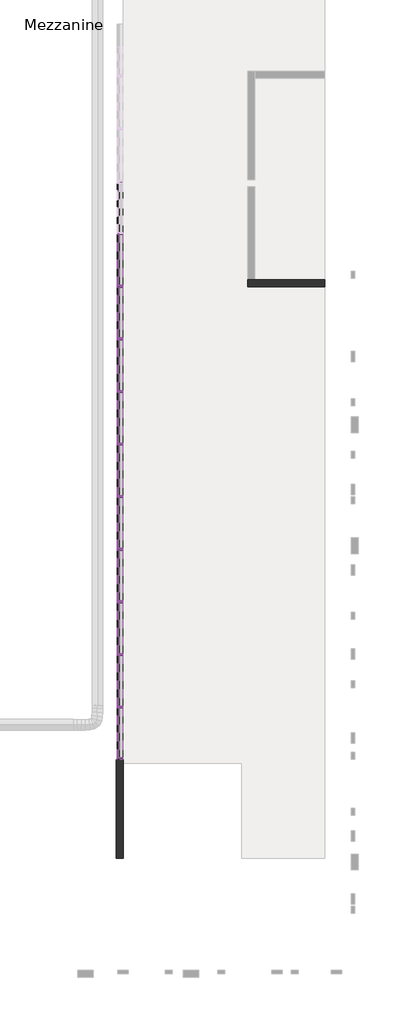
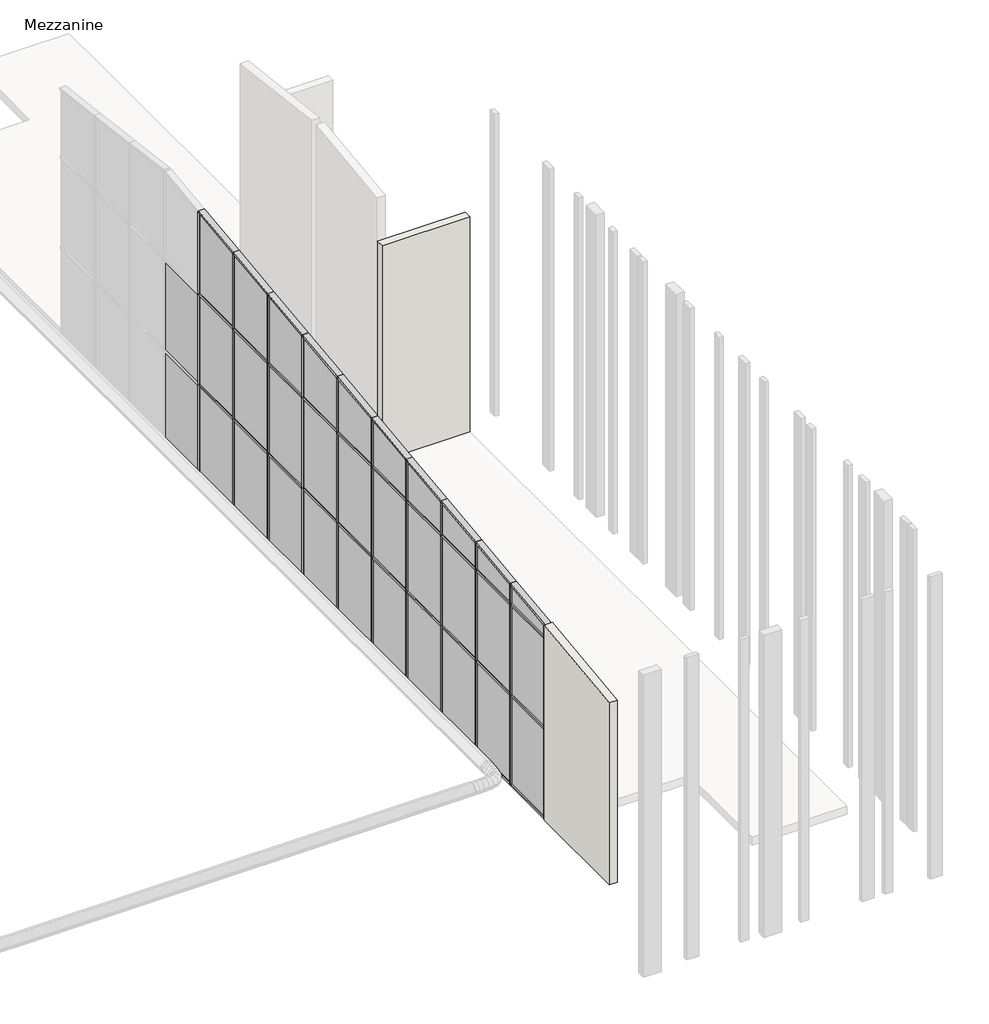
# One storey, part 1 of 7: 74 members, 32 plates, 2 walls.
"""IFC4 building model written with IfcOpenShell, lengths in millimetres."""

from ifc_helpers import new_model, si_unit, frame, origin, place, context, project, spatial, polyline, outline, extrude, faceted_brep, transform, mapped, element, save
from components import rectangular_mullion_50x150mm_3f309564, rectangular_mullion_50x150mm_6225e4e3, rectangular_mullion_50x150mm_2e7cc893, rectangular_mullion_50x150mm_5172759d, rectangular_mullion_50x150mm_f517b106, rectangular_mullion_50x150mm_8822e3e5, rectangular_mullion_50x150mm_46eed191, rectangular_mullion_50x150mm_0b98757f, rectangular_mullion_50x150mm_6d1c4966, rectangular_mullion_50x150mm_a60a9be7, rectangular_mullion_50x150mm_fb15dcae, rectangular_mullion_50x150mm_117dc41f, rectangular_mullion_50x150mm_21c36bc8, rectangular_mullion_50x150mm_12e0e616, rectangular_mullion_50x150mm_9e2aa556, rectangular_mullion_50x150mm_26ab9aec, rectangular_mullion_50x150mm_6953233a, rectangular_mullion_50x150mm_de235075, rectangular_mullion_50x150mm_662c37b1, system_panel_glazed_c8329cd5, system_panel_glazed_24a0e3a8, system_panel_glazed_3d8f6b4e, system_panel_glazed_97d3e589, system_panel_glazed_bb67df89, system_panel_glazed_d58f1996, system_panel_glazed_0c31e6eb, system_panel_glazed_ef8defe9, system_panel_glazed_98017830, system_panel_glazed_e39b940b, system_panel_glazed_0b7033eb, system_panel_glazed_049fbe71, system_panel_glazed_4bb1f2ed, system_panel_glazed_d0be8725

model = new_model("IFC4")

# Units and contexts
model_context = context("Model", 3, world=origin())
ifc_project = project(units=[si_unit("LENGTHUNIT", "METRE", prefix="MILLI")], contexts=[model_context])

# Site, building, storey
site = spatial("IfcSite", under=ifc_project)
building = spatial("IfcBuilding", under=site)
storey = spatial("IfcBuildingStorey", under=building, Name="Mezzanine", Elevation=5800.0)

# Members
placement = place(None, origin())
rectangular_mullion_50x150mm_shape = rectangular_mullion_50x150mm_3f309564(model_context)
element("IfcMember", 1, ObjectType="Rectangular Mullion : 50x150mm", at=placement, inside=storey, context=model_context, shape_type="MappedRepresentation", body=[
    mapped(rectangular_mullion_50x150mm_shape, transform((-18810.7705062, -30330.5199596, 5800.0), x_axis=(0.0, 0.0, -1.0), y_axis=(1.0, 0.0, 0.0), z_axis=(0.0, -1.0, 0.0))),
])
rectangular_mullion_50x150mm_2_shape = rectangular_mullion_50x150mm_6225e4e3(model_context)
element("IfcMember", 2, ObjectType="Rectangular Mullion : 50x150mm", at=placement, inside=storey, context=model_context, shape_type="MappedRepresentation", body=[
    mapped(rectangular_mullion_50x150mm_2_shape, transform((-18810.7705062, -28876.5936436, 5800.0), x_axis=(0.0, 1.0, 0.0), y_axis=(1.0, 0.0, 0.0), z_axis=(0.0, 0.0, -1.0))),
])
element("IfcMember", 3, ObjectType="Rectangular Mullion : 50x150mm", at=placement, inside=storey, context=model_context, shape_type="MappedRepresentation", body=[
    mapped(rectangular_mullion_50x150mm_2_shape, transform((-18810.7705062, -27372.6673278, 5800.0), x_axis=(0.0, 1.0, 0.0), y_axis=(1.0, 0.0, 0.0), z_axis=(0.0, 0.0, -1.0))),
])
element("IfcMember", 4, ObjectType="Rectangular Mullion : 50x150mm", at=placement, inside=storey, context=model_context, shape_type="MappedRepresentation", body=[
    mapped(rectangular_mullion_50x150mm_2_shape, transform((-18810.7705062, -25868.7410121, 5800.0), x_axis=(0.0, 1.0, 0.0), y_axis=(1.0, 0.0, 0.0), z_axis=(0.0, 0.0, -1.0))),
])
element("IfcMember", 5, ObjectType="Rectangular Mullion : 50x150mm", at=placement, inside=storey, context=model_context, shape_type="MappedRepresentation", body=[
    mapped(rectangular_mullion_50x150mm_2_shape, transform((-18810.7705062, -24364.8146963, 5800.0), x_axis=(0.0, 1.0, 0.0), y_axis=(1.0, 0.0, 0.0), z_axis=(0.0, 0.0, -1.0))),
])
element("IfcMember", 6, ObjectType="Rectangular Mullion : 50x150mm", at=placement, inside=storey, context=model_context, shape_type="MappedRepresentation", body=[
    mapped(rectangular_mullion_50x150mm_2_shape, transform((-18810.7705062, -22860.8883805, 5800.0), x_axis=(0.0, 1.0, 0.0), y_axis=(1.0, 0.0, 0.0), z_axis=(0.0, 0.0, -1.0))),
])
element("IfcMember", 7, ObjectType="Rectangular Mullion : 50x150mm", at=placement, inside=storey, context=model_context, shape_type="MappedRepresentation", body=[
    mapped(rectangular_mullion_50x150mm_2_shape, transform((-18810.7705062, -21356.9620648, 5800.0), x_axis=(0.0, 1.0, 0.0), y_axis=(1.0, 0.0, 0.0), z_axis=(0.0, 0.0, -1.0))),
])
element("IfcMember", 8, ObjectType="Rectangular Mullion : 50x150mm", at=placement, inside=storey, context=model_context, shape_type="MappedRepresentation", body=[
    mapped(rectangular_mullion_50x150mm_2_shape, transform((-18810.7705062, -19853.035749, 5800.0), x_axis=(0.0, 1.0, 0.0), y_axis=(1.0, 0.0, 0.0), z_axis=(0.0, 0.0, -1.0))),
])
element("IfcMember", 9, ObjectType="Rectangular Mullion : 50x150mm", at=placement, inside=storey, context=model_context, shape_type="MappedRepresentation", body=[
    mapped(rectangular_mullion_50x150mm_2_shape, transform((-18810.7705062, -18349.1094333, 5800.0), x_axis=(0.0, 1.0, 0.0), y_axis=(1.0, 0.0, 0.0), z_axis=(0.0, 0.0, -1.0))),
])
element("IfcMember", 10, ObjectType="Rectangular Mullion : 50x150mm", at=placement, inside=storey, context=model_context, shape_type="MappedRepresentation", body=[
    mapped(rectangular_mullion_50x150mm_2_shape, transform((-18810.7705062, -16845.1831175, 5800.0), x_axis=(0.0, 1.0, 0.0), y_axis=(1.0, 0.0, 0.0), z_axis=(0.0, 0.0, -1.0))),
])
element("IfcMember", 11, ObjectType="Rectangular Mullion : 50x150mm", at=placement, inside=storey, context=model_context, shape_type="MappedRepresentation", body=[
    mapped(rectangular_mullion_50x150mm_2_shape, transform((-18810.7705062, -15341.2568018, 5800.0), x_axis=(0.0, 1.0, 0.0), y_axis=(1.0, 0.0, 0.0), z_axis=(0.0, 0.0, -1.0))),
])
rectangular_mullion_50x150mm_3_shape = rectangular_mullion_50x150mm_2e7cc893(model_context)
element("IfcMember", 12, ObjectType="Rectangular Mullion : 50x150mm", at=placement, inside=storey, context=model_context, shape_type="MappedRepresentation", body=[
    mapped(rectangular_mullion_50x150mm_3_shape, transform((-18810.7705062, -28901.5936436, 8200.0), x_axis=(0.0, 0.0, 1.0), y_axis=(1.0, 0.0, 0.0), z_axis=(0.0, 1.0, 0.0))),
])
element("IfcMember", 13, ObjectType="Rectangular Mullion : 50x150mm", at=placement, inside=storey, context=model_context, shape_type="MappedRepresentation", body=[
    mapped(rectangular_mullion_50x150mm_3_shape, transform((-18810.7705062, -28901.5936436, 10600.0), x_axis=(0.0, 0.0, 1.0), y_axis=(1.0, 0.0, 0.0), z_axis=(0.0, 1.0, 0.0))),
])
rectangular_mullion_50x150mm_4_shape = rectangular_mullion_50x150mm_5172759d(model_context)
element("IfcMember", 14, ObjectType="Rectangular Mullion : 50x150mm", at=placement, inside=storey, context=model_context, shape_type="MappedRepresentation", body=[
    mapped(rectangular_mullion_50x150mm_4_shape, transform((-18810.7705062, -27397.6673278, 8200.0), x_axis=(0.0, 0.0, 1.0), y_axis=(1.0, 0.0, 0.0), z_axis=(0.0, 1.0, 0.0))),
])
element("IfcMember", 15, ObjectType="Rectangular Mullion : 50x150mm", at=placement, inside=storey, context=model_context, shape_type="MappedRepresentation", body=[
    mapped(rectangular_mullion_50x150mm_4_shape, transform((-18810.7705062, -25893.7410121, 8200.0), x_axis=(0.0, 0.0, 1.0), y_axis=(1.0, 0.0, 0.0), z_axis=(0.0, 1.0, 0.0))),
])
element("IfcMember", 16, ObjectType="Rectangular Mullion : 50x150mm", at=placement, inside=storey, context=model_context, shape_type="MappedRepresentation", body=[
    mapped(rectangular_mullion_50x150mm_4_shape, transform((-18810.7705062, -24389.8146963, 8200.0), x_axis=(0.0, 0.0, 1.0), y_axis=(1.0, 0.0, 0.0), z_axis=(0.0, 1.0, 0.0))),
])
element("IfcMember", 17, ObjectType="Rectangular Mullion : 50x150mm", at=placement, inside=storey, context=model_context, shape_type="MappedRepresentation", body=[
    mapped(rectangular_mullion_50x150mm_4_shape, transform((-18810.7705062, -22885.8883805, 8200.0), x_axis=(0.0, 0.0, 1.0), y_axis=(1.0, 0.0, 0.0), z_axis=(0.0, 1.0, 0.0))),
])
element("IfcMember", 18, ObjectType="Rectangular Mullion : 50x150mm", at=placement, inside=storey, context=model_context, shape_type="MappedRepresentation", body=[
    mapped(rectangular_mullion_50x150mm_4_shape, transform((-18810.7705062, -21381.9620648, 8200.0), x_axis=(0.0, 0.0, 1.0), y_axis=(1.0, 0.0, 0.0), z_axis=(0.0, 1.0, 0.0))),
])
element("IfcMember", 19, ObjectType="Rectangular Mullion : 50x150mm", at=placement, inside=storey, context=model_context, shape_type="MappedRepresentation", body=[
    mapped(rectangular_mullion_50x150mm_4_shape, transform((-18810.7705062, -19878.035749, 8200.0), x_axis=(0.0, 0.0, 1.0), y_axis=(1.0, 0.0, 0.0), z_axis=(0.0, 1.0, 0.0))),
])
element("IfcMember", 20, ObjectType="Rectangular Mullion : 50x150mm", at=placement, inside=storey, context=model_context, shape_type="MappedRepresentation", body=[
    mapped(rectangular_mullion_50x150mm_4_shape, transform((-18810.7705062, -18374.1094333, 8200.0), x_axis=(0.0, 0.0, 1.0), y_axis=(1.0, 0.0, 0.0), z_axis=(0.0, 1.0, 0.0))),
])
element("IfcMember", 21, ObjectType="Rectangular Mullion : 50x150mm", at=placement, inside=storey, context=model_context, shape_type="MappedRepresentation", body=[
    mapped(rectangular_mullion_50x150mm_4_shape, transform((-18810.7705062, -16870.1831175, 8200.0), x_axis=(0.0, 0.0, 1.0), y_axis=(1.0, 0.0, 0.0), z_axis=(0.0, 1.0, 0.0))),
])
element("IfcMember", 22, ObjectType="Rectangular Mullion : 50x150mm", at=placement, inside=storey, context=model_context, shape_type="MappedRepresentation", body=[
    mapped(rectangular_mullion_50x150mm_4_shape, transform((-18810.7705062, -15366.2568018, 8200.0), x_axis=(0.0, 0.0, 1.0), y_axis=(1.0, 0.0, 0.0), z_axis=(0.0, 1.0, 0.0))),
])
element("IfcMember", 23, ObjectType="Rectangular Mullion : 50x150mm", at=placement, inside=storey, context=model_context, shape_type="MappedRepresentation", body=[
    mapped(rectangular_mullion_50x150mm_4_shape, transform((-18810.7705062, -27397.6673278, 10600.0), x_axis=(0.0, 0.0, 1.0), y_axis=(1.0, 0.0, 0.0), z_axis=(0.0, 1.0, 0.0))),
])
element("IfcMember", 24, ObjectType="Rectangular Mullion : 50x150mm", at=placement, inside=storey, context=model_context, shape_type="MappedRepresentation", body=[
    mapped(rectangular_mullion_50x150mm_4_shape, transform((-18810.7705062, -25893.7410121, 10600.0), x_axis=(0.0, 0.0, 1.0), y_axis=(1.0, 0.0, 0.0), z_axis=(0.0, 1.0, 0.0))),
])
element("IfcMember", 25, ObjectType="Rectangular Mullion : 50x150mm", at=placement, inside=storey, context=model_context, shape_type="MappedRepresentation", body=[
    mapped(rectangular_mullion_50x150mm_4_shape, transform((-18810.7705062, -24389.8146963, 10600.0), x_axis=(0.0, 0.0, 1.0), y_axis=(1.0, 0.0, 0.0), z_axis=(0.0, 1.0, 0.0))),
])
element("IfcMember", 26, ObjectType="Rectangular Mullion : 50x150mm", at=placement, inside=storey, context=model_context, shape_type="MappedRepresentation", body=[
    mapped(rectangular_mullion_50x150mm_4_shape, transform((-18810.7705062, -22885.8883805, 10600.0), x_axis=(0.0, 0.0, 1.0), y_axis=(1.0, 0.0, 0.0), z_axis=(0.0, 1.0, 0.0))),
])
element("IfcMember", 27, ObjectType="Rectangular Mullion : 50x150mm", at=placement, inside=storey, context=model_context, shape_type="MappedRepresentation", body=[
    mapped(rectangular_mullion_50x150mm_4_shape, transform((-18810.7705062, -21381.9620648, 10600.0), x_axis=(0.0, 0.0, 1.0), y_axis=(1.0, 0.0, 0.0), z_axis=(0.0, 1.0, 0.0))),
])
element("IfcMember", 28, ObjectType="Rectangular Mullion : 50x150mm", at=placement, inside=storey, context=model_context, shape_type="MappedRepresentation", body=[
    mapped(rectangular_mullion_50x150mm_4_shape, transform((-18810.7705062, -19878.035749, 10600.0), x_axis=(0.0, 0.0, 1.0), y_axis=(1.0, 0.0, 0.0), z_axis=(0.0, 1.0, 0.0))),
])
element("IfcMember", 29, ObjectType="Rectangular Mullion : 50x150mm", at=placement, inside=storey, context=model_context, shape_type="MappedRepresentation", body=[
    mapped(rectangular_mullion_50x150mm_4_shape, transform((-18810.7705062, -18374.1094333, 10600.0), x_axis=(0.0, 0.0, 1.0), y_axis=(1.0, 0.0, 0.0), z_axis=(0.0, 1.0, 0.0))),
])
element("IfcMember", 30, ObjectType="Rectangular Mullion : 50x150mm", at=placement, inside=storey, context=model_context, shape_type="MappedRepresentation", body=[
    mapped(rectangular_mullion_50x150mm_4_shape, transform((-18810.7705062, -16870.1831175, 10600.0), x_axis=(0.0, 0.0, 1.0), y_axis=(1.0, 0.0, 0.0), z_axis=(0.0, 1.0, 0.0))),
])
element("IfcMember", 31, ObjectType="Rectangular Mullion : 50x150mm", at=placement, inside=storey, context=model_context, shape_type="MappedRepresentation", body=[
    mapped(rectangular_mullion_50x150mm_4_shape, transform((-18810.7705062, -15366.2568018, 10600.0), x_axis=(0.0, 0.0, 1.0), y_axis=(1.0, 0.0, 0.0), z_axis=(0.0, 1.0, 0.0))),
])
rectangular_mullion_50x150mm_5_shape = rectangular_mullion_50x150mm_f517b106(model_context)
element("IfcMember", 32, ObjectType="Rectangular Mullion : 50x150mm", at=placement, inside=storey, context=model_context, shape_type="MappedRepresentation", body=[
    mapped(rectangular_mullion_50x150mm_5_shape, transform((-18810.7705062, -28851.5936436, 5800.0), x_axis=(0.0, 0.0, -1.0), y_axis=(1.0, 0.0, 0.0), z_axis=(0.0, -1.0, 0.0))),
])
element("IfcMember", 33, ObjectType="Rectangular Mullion : 50x150mm", at=placement, inside=storey, context=model_context, shape_type="MappedRepresentation", body=[
    mapped(rectangular_mullion_50x150mm_5_shape, transform((-18810.7705062, -27347.6673278, 5800.0), x_axis=(0.0, 0.0, -1.0), y_axis=(1.0, 0.0, 0.0), z_axis=(0.0, -1.0, 0.0))),
])
element("IfcMember", 34, ObjectType="Rectangular Mullion : 50x150mm", at=placement, inside=storey, context=model_context, shape_type="MappedRepresentation", body=[
    mapped(rectangular_mullion_50x150mm_5_shape, transform((-18810.7705062, -25843.7410121, 5800.0), x_axis=(0.0, 0.0, -1.0), y_axis=(1.0, 0.0, 0.0), z_axis=(0.0, -1.0, 0.0))),
])
element("IfcMember", 35, ObjectType="Rectangular Mullion : 50x150mm", at=placement, inside=storey, context=model_context, shape_type="MappedRepresentation", body=[
    mapped(rectangular_mullion_50x150mm_5_shape, transform((-18810.7705062, -24339.8146963, 5800.0), x_axis=(0.0, 0.0, -1.0), y_axis=(1.0, 0.0, 0.0), z_axis=(0.0, -1.0, 0.0))),
])
element("IfcMember", 36, ObjectType="Rectangular Mullion : 50x150mm", at=placement, inside=storey, context=model_context, shape_type="MappedRepresentation", body=[
    mapped(rectangular_mullion_50x150mm_5_shape, transform((-18810.7705062, -22835.8883805, 5800.0), x_axis=(0.0, 0.0, -1.0), y_axis=(1.0, 0.0, 0.0), z_axis=(0.0, -1.0, 0.0))),
])
element("IfcMember", 37, ObjectType="Rectangular Mullion : 50x150mm", at=placement, inside=storey, context=model_context, shape_type="MappedRepresentation", body=[
    mapped(rectangular_mullion_50x150mm_5_shape, transform((-18810.7705062, -21331.9620648, 5800.0), x_axis=(0.0, 0.0, -1.0), y_axis=(1.0, 0.0, 0.0), z_axis=(0.0, -1.0, 0.0))),
])
element("IfcMember", 38, ObjectType="Rectangular Mullion : 50x150mm", at=placement, inside=storey, context=model_context, shape_type="MappedRepresentation", body=[
    mapped(rectangular_mullion_50x150mm_5_shape, transform((-18810.7705062, -19828.035749, 5800.0), x_axis=(0.0, 0.0, -1.0), y_axis=(1.0, 0.0, 0.0), z_axis=(0.0, -1.0, 0.0))),
])
element("IfcMember", 39, ObjectType="Rectangular Mullion : 50x150mm", at=placement, inside=storey, context=model_context, shape_type="MappedRepresentation", body=[
    mapped(rectangular_mullion_50x150mm_5_shape, transform((-18810.7705062, -18324.1094333, 5800.0), x_axis=(0.0, 0.0, -1.0), y_axis=(1.0, 0.0, 0.0), z_axis=(0.0, -1.0, 0.0))),
])
element("IfcMember", 40, ObjectType="Rectangular Mullion : 50x150mm", at=placement, inside=storey, context=model_context, shape_type="MappedRepresentation", body=[
    mapped(rectangular_mullion_50x150mm_5_shape, transform((-18810.7705062, -16820.1831175, 5800.0), x_axis=(0.0, 0.0, -1.0), y_axis=(1.0, 0.0, 0.0), z_axis=(0.0, -1.0, 0.0))),
])
element("IfcMember", 41, ObjectType="Rectangular Mullion : 50x150mm", at=placement, inside=storey, context=model_context, shape_type="MappedRepresentation", body=[
    mapped(rectangular_mullion_50x150mm_5_shape, transform((-18810.7705062, -15316.2568018, 5800.0), x_axis=(0.0, 0.0, -1.0), y_axis=(1.0, 0.0, 0.0), z_axis=(0.0, -1.0, 0.0))),
])
element("IfcMember", 42, ObjectType="Rectangular Mullion : 50x150mm", at=placement, inside=storey, context=model_context, shape_type="MappedRepresentation", body=[
    mapped(rectangular_mullion_50x150mm_2_shape, transform((-18810.7705062, -28876.5936436, 8200.0), x_axis=(0.0, 1.0, 0.0), y_axis=(1.0, 0.0, 0.0), z_axis=(0.0, 0.0, -1.0))),
])
element("IfcMember", 43, ObjectType="Rectangular Mullion : 50x150mm", at=placement, inside=storey, context=model_context, shape_type="MappedRepresentation", body=[
    mapped(rectangular_mullion_50x150mm_2_shape, transform((-18810.7705062, -27372.6673278, 8200.0), x_axis=(0.0, 1.0, 0.0), y_axis=(1.0, 0.0, 0.0), z_axis=(0.0, 0.0, -1.0))),
])
element("IfcMember", 44, ObjectType="Rectangular Mullion : 50x150mm", at=placement, inside=storey, context=model_context, shape_type="MappedRepresentation", body=[
    mapped(rectangular_mullion_50x150mm_2_shape, transform((-18810.7705062, -25868.7410121, 8200.0), x_axis=(0.0, 1.0, 0.0), y_axis=(1.0, 0.0, 0.0), z_axis=(0.0, 0.0, -1.0))),
])
element("IfcMember", 45, ObjectType="Rectangular Mullion : 50x150mm", at=placement, inside=storey, context=model_context, shape_type="MappedRepresentation", body=[
    mapped(rectangular_mullion_50x150mm_2_shape, transform((-18810.7705062, -24364.8146963, 8200.0), x_axis=(0.0, 1.0, 0.0), y_axis=(1.0, 0.0, 0.0), z_axis=(0.0, 0.0, -1.0))),
])
element("IfcMember", 46, ObjectType="Rectangular Mullion : 50x150mm", at=placement, inside=storey, context=model_context, shape_type="MappedRepresentation", body=[
    mapped(rectangular_mullion_50x150mm_2_shape, transform((-18810.7705062, -22860.8883805, 8200.0), x_axis=(0.0, 1.0, 0.0), y_axis=(1.0, 0.0, 0.0), z_axis=(0.0, 0.0, -1.0))),
])
element("IfcMember", 47, ObjectType="Rectangular Mullion : 50x150mm", at=placement, inside=storey, context=model_context, shape_type="MappedRepresentation", body=[
    mapped(rectangular_mullion_50x150mm_2_shape, transform((-18810.7705062, -21356.9620648, 8200.0), x_axis=(0.0, 1.0, 0.0), y_axis=(1.0, 0.0, 0.0), z_axis=(0.0, 0.0, -1.0))),
])
element("IfcMember", 48, ObjectType="Rectangular Mullion : 50x150mm", at=placement, inside=storey, context=model_context, shape_type="MappedRepresentation", body=[
    mapped(rectangular_mullion_50x150mm_2_shape, transform((-18810.7705062, -19853.035749, 8200.0), x_axis=(0.0, 1.0, 0.0), y_axis=(1.0, 0.0, 0.0), z_axis=(0.0, 0.0, -1.0))),
])
element("IfcMember", 49, ObjectType="Rectangular Mullion : 50x150mm", at=placement, inside=storey, context=model_context, shape_type="MappedRepresentation", body=[
    mapped(rectangular_mullion_50x150mm_2_shape, transform((-18810.7705062, -18349.1094333, 8200.0), x_axis=(0.0, 1.0, 0.0), y_axis=(1.0, 0.0, 0.0), z_axis=(0.0, 0.0, -1.0))),
])
element("IfcMember", 50, ObjectType="Rectangular Mullion : 50x150mm", at=placement, inside=storey, context=model_context, shape_type="MappedRepresentation", body=[
    mapped(rectangular_mullion_50x150mm_2_shape, transform((-18810.7705062, -16845.1831175, 8200.0), x_axis=(0.0, 1.0, 0.0), y_axis=(1.0, 0.0, 0.0), z_axis=(0.0, 0.0, -1.0))),
])
element("IfcMember", 51, ObjectType="Rectangular Mullion : 50x150mm", at=placement, inside=storey, context=model_context, shape_type="MappedRepresentation", body=[
    mapped(rectangular_mullion_50x150mm_2_shape, transform((-18810.7705062, -15341.2568018, 8200.0), x_axis=(0.0, 1.0, 0.0), y_axis=(1.0, 0.0, 0.0), z_axis=(0.0, 0.0, -1.0))),
])
rectangular_mullion_50x150mm_6_shape = rectangular_mullion_50x150mm_8822e3e5(model_context)
element("IfcMember", 52, ObjectType="Rectangular Mullion : 50x150mm", at=placement, inside=storey, context=model_context, shape_type="MappedRepresentation", body=[
    mapped(rectangular_mullion_50x150mm_6_shape, transform((-18810.7705062, -28876.5936436, 10600.0), x_axis=(0.0, 1.0, 0.0), y_axis=(1.0, 0.0, 0.0), z_axis=(0.0, 0.0, -1.0))),
])
rectangular_mullion_50x150mm_7_shape = rectangular_mullion_50x150mm_46eed191(model_context)
element("IfcMember", 53, ObjectType="Rectangular Mullion : 50x150mm", at=placement, inside=storey, context=model_context, shape_type="MappedRepresentation", body=[
    mapped(rectangular_mullion_50x150mm_7_shape, transform((-18810.7705062, -27372.6673278, 10600.0), x_axis=(0.0, 1.0, 0.0), y_axis=(1.0, 0.0, 0.0), z_axis=(0.0, 0.0, -1.0))),
])
rectangular_mullion_50x150mm_8_shape = rectangular_mullion_50x150mm_0b98757f(model_context)
element("IfcMember", 54, ObjectType="Rectangular Mullion : 50x150mm", at=placement, inside=storey, context=model_context, shape_type="MappedRepresentation", body=[
    mapped(rectangular_mullion_50x150mm_8_shape, transform((-18810.7705062, -25868.7410121, 10600.0), x_axis=(0.0, 1.0, 0.0), y_axis=(1.0, 0.0, 0.0), z_axis=(0.0, 0.0, -1.0))),
])
rectangular_mullion_50x150mm_9_shape = rectangular_mullion_50x150mm_6d1c4966(model_context)
element("IfcMember", 55, ObjectType="Rectangular Mullion : 50x150mm", at=placement, inside=storey, context=model_context, shape_type="MappedRepresentation", body=[
    mapped(rectangular_mullion_50x150mm_9_shape, transform((-18810.7705062, -24364.8146963, 10600.0), x_axis=(0.0, 1.0, 0.0), y_axis=(1.0, 0.0, 0.0), z_axis=(0.0, 0.0, -1.0))),
])
rectangular_mullion_50x150mm_10_shape = rectangular_mullion_50x150mm_a60a9be7(model_context)
element("IfcMember", 56, ObjectType="Rectangular Mullion : 50x150mm", at=placement, inside=storey, context=model_context, shape_type="MappedRepresentation", body=[
    mapped(rectangular_mullion_50x150mm_10_shape, transform((-18810.7705062, -22860.8883805, 10600.0), x_axis=(0.0, 1.0, 0.0), y_axis=(1.0, 0.0, 0.0), z_axis=(0.0, 0.0, -1.0))),
])
rectangular_mullion_50x150mm_11_shape = rectangular_mullion_50x150mm_fb15dcae(model_context)
element("IfcMember", 57, ObjectType="Rectangular Mullion : 50x150mm", at=placement, inside=storey, context=model_context, shape_type="MappedRepresentation", body=[
    mapped(rectangular_mullion_50x150mm_11_shape, transform((-18810.7705062, -21356.9620648, 10600.0), x_axis=(0.0, 1.0, 0.0), y_axis=(1.0, 0.0, 0.0), z_axis=(0.0, 0.0, -1.0))),
])
rectangular_mullion_50x150mm_12_shape = rectangular_mullion_50x150mm_117dc41f(model_context)
element("IfcMember", 58, ObjectType="Rectangular Mullion : 50x150mm", at=placement, inside=storey, context=model_context, shape_type="MappedRepresentation", body=[
    mapped(rectangular_mullion_50x150mm_12_shape, transform((-18810.7705062, -19853.035749, 10600.0), x_axis=(0.0, 1.0, 0.0), y_axis=(1.0, 0.0, 0.0), z_axis=(0.0, 0.0, -1.0))),
])
rectangular_mullion_50x150mm_13_shape = rectangular_mullion_50x150mm_21c36bc8(model_context)
element("IfcMember", 59, ObjectType="Rectangular Mullion : 50x150mm", at=placement, inside=storey, context=model_context, shape_type="MappedRepresentation", body=[
    mapped(rectangular_mullion_50x150mm_13_shape, transform((-18810.7705062, -18349.1094333, 10600.0), x_axis=(0.0, 1.0, 0.0), y_axis=(1.0, 0.0, 0.0), z_axis=(0.0, 0.0, -1.0))),
])
rectangular_mullion_50x150mm_14_shape = rectangular_mullion_50x150mm_12e0e616(model_context)
element("IfcMember", 60, ObjectType="Rectangular Mullion : 50x150mm", at=placement, inside=storey, context=model_context, shape_type="MappedRepresentation", body=[
    mapped(rectangular_mullion_50x150mm_14_shape, transform((-18810.7705062, -16845.1831175, 10600.0), x_axis=(0.0, 1.0, 0.0), y_axis=(1.0, 0.0, 0.0), z_axis=(0.0, 0.0, -1.0))),
])
rectangular_mullion_50x150mm_15_shape = rectangular_mullion_50x150mm_9e2aa556(model_context)
element("IfcMember", 61, ObjectType="Rectangular Mullion : 50x150mm", at=placement, inside=storey, context=model_context, shape_type="MappedRepresentation", body=[
    mapped(rectangular_mullion_50x150mm_15_shape, transform((-18810.7705062, -15341.2568018, 10600.0), x_axis=(0.0, 1.0, 0.0), y_axis=(1.0, 0.0, 0.0), z_axis=(0.0, 0.0, -1.0))),
])
rectangular_mullion_50x150mm_16_shape = rectangular_mullion_50x150mm_26ab9aec(model_context)
element("IfcMember", 62, ObjectType="Rectangular Mullion : 50x150mm", at=placement, inside=storey, context=model_context, shape_type="MappedRepresentation", body=[
    mapped(rectangular_mullion_50x150mm_16_shape, transform((-18810.7705062, -28876.5936436, 11150.8142891), x_axis=(0.0, -0.1218693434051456, 0.9925461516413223), y_axis=(1.0, 0.0, 0.0), z_axis=(0.0, 0.9925461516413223, 0.1218693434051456))),
])
rectangular_mullion_50x150mm_17_shape = rectangular_mullion_50x150mm_6953233a(model_context)
element("IfcMember", 63, ObjectType="Rectangular Mullion : 50x150mm", at=placement, inside=storey, context=model_context, shape_type="MappedRepresentation", body=[
    mapped(rectangular_mullion_50x150mm_17_shape, transform((-18810.7705062, -27372.6673278, 11335.4732214), x_axis=(0.0, -0.12186934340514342, 0.9925461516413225), y_axis=(1.0, 0.0, 0.0), z_axis=(0.0, 0.9925461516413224, 0.12186934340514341))),
])
element("IfcMember", 64, ObjectType="Rectangular Mullion : 50x150mm", at=placement, inside=storey, context=model_context, shape_type="MappedRepresentation", body=[
    mapped(rectangular_mullion_50x150mm_17_shape, transform((-18810.7705062, -25868.7410121, 11520.1321537), x_axis=(0.0, -0.12186934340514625, 0.9925461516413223), y_axis=(1.0, 0.0, 0.0), z_axis=(0.0, 0.9925461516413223, 0.12186934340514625))),
])
element("IfcMember", 65, ObjectType="Rectangular Mullion : 50x150mm", at=placement, inside=storey, context=model_context, shape_type="MappedRepresentation", body=[
    mapped(rectangular_mullion_50x150mm_17_shape, transform((-18810.7705062, -24364.8146963, 11704.791086), x_axis=(0.0, -0.12186934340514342, 0.9925461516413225), y_axis=(1.0, 0.0, 0.0), z_axis=(0.0, 0.9925461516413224, 0.12186934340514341))),
])
element("IfcMember", 66, ObjectType="Rectangular Mullion : 50x150mm", at=placement, inside=storey, context=model_context, shape_type="MappedRepresentation", body=[
    mapped(rectangular_mullion_50x150mm_17_shape, transform((-18810.7705062, -22860.8883805, 11889.4500183), x_axis=(0.0, -0.12186934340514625, 0.9925461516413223), y_axis=(1.0, 0.0, 0.0), z_axis=(0.0, 0.9925461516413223, 0.12186934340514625))),
])
element("IfcMember", 67, ObjectType="Rectangular Mullion : 50x150mm", at=placement, inside=storey, context=model_context, shape_type="MappedRepresentation", body=[
    mapped(rectangular_mullion_50x150mm_17_shape, transform((-18810.7705062, -21356.9620648, 12074.1089506), x_axis=(0.0, -0.12186934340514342, 0.9925461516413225), y_axis=(1.0, 0.0, 0.0), z_axis=(0.0, 0.9925461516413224, 0.12186934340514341))),
])
element("IfcMember", 68, ObjectType="Rectangular Mullion : 50x150mm", at=placement, inside=storey, context=model_context, shape_type="MappedRepresentation", body=[
    mapped(rectangular_mullion_50x150mm_17_shape, transform((-18810.7705062, -19853.035749, 12258.7678829), x_axis=(0.0, -0.1218693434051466, 0.9925461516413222), y_axis=(1.0, 0.0, 0.0), z_axis=(0.0, 0.9925461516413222, 0.1218693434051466))),
])
element("IfcMember", 69, ObjectType="Rectangular Mullion : 50x150mm", at=placement, inside=storey, context=model_context, shape_type="MappedRepresentation", body=[
    mapped(rectangular_mullion_50x150mm_17_shape, transform((-18810.7705062, -18349.1094333, 12443.4268152), x_axis=(0.0, -0.12186934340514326, 0.9925461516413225), y_axis=(1.0, 0.0, 0.0), z_axis=(0.0, 0.9925461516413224, 0.12186934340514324))),
])
element("IfcMember", 70, ObjectType="Rectangular Mullion : 50x150mm", at=placement, inside=storey, context=model_context, shape_type="MappedRepresentation", body=[
    mapped(rectangular_mullion_50x150mm_17_shape, transform((-18810.7705062, -16845.1831175, 12628.0857476), x_axis=(0.0, -0.12186934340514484, 0.9925461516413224), y_axis=(1.0, 0.0, 0.0), z_axis=(0.0, 0.9925461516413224, 0.12186934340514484))),
])
element("IfcMember", 71, ObjectType="Rectangular Mullion : 50x150mm", at=placement, inside=storey, context=model_context, shape_type="MappedRepresentation", body=[
    mapped(rectangular_mullion_50x150mm_17_shape, transform((-18810.7705062, -15341.2568018, 12812.7446799), x_axis=(0.0, -0.12186934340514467, 0.9925461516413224), y_axis=(1.0, 0.0, 0.0), z_axis=(0.0, 0.9925461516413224, 0.12186934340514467))),
])
rectangular_mullion_50x150mm_18_shape = rectangular_mullion_50x150mm_de235075(model_context)
element("IfcMember", 72, ObjectType="Rectangular Mullion : 50x150mm", at=placement, inside=storey, context=model_context, shape_type="MappedRepresentation", body=[
    mapped(rectangular_mullion_50x150mm_18_shape, transform((-18810.7705062, -30380.5199596, 10966.1553567), x_axis=(0.0, -1.0, 0.0), y_axis=(1.0, 0.0, 0.0), z_axis=(0.0, 0.0, 1.0))),
])
rectangular_mullion_50x150mm_19_shape = rectangular_mullion_50x150mm_662c37b1(model_context)
element("IfcMember", 73, ObjectType="Rectangular Mullion : 50x150mm", at=placement, inside=storey, context=model_context, shape_type="MappedRepresentation", body=[
    mapped(rectangular_mullion_50x150mm_19_shape, transform((-18810.7705062, -30380.5199596, 8200.0), x_axis=(0.0, -1.0, 0.0), y_axis=(1.0, 0.0, 0.0), z_axis=(0.0, 0.0, 1.0))),
])
element("IfcMember", 74, ObjectType="Rectangular Mullion : 50x150mm", at=placement, inside=storey, context=model_context, shape_type="MappedRepresentation", body=[
    mapped(rectangular_mullion_50x150mm_19_shape, transform((-18810.7705062, -30380.5199596, 10600.0), x_axis=(0.0, -1.0, 0.0), y_axis=(1.0, 0.0, 0.0), z_axis=(0.0, 0.0, 1.0))),
])

# Plates
system_panel_glazed_shape = system_panel_glazed_c8329cd5(model_context)
element("IfcPlate", 75, ObjectType="System Panel : Glazed", at=placement, inside=storey, context=model_context, shape_type="MappedRepresentation", body=[
    mapped(system_panel_glazed_shape, transform((-18810.7705062, -29616.0568016, 5850.0), x_axis=(0.0, 1.0, 0.0), y_axis=(-1.0, 0.0, 0.0), z_axis=(0.0, 0.0, 1.0))),
])
system_panel_glazed_2_shape = system_panel_glazed_24a0e3a8(model_context)
element("IfcPlate", 76, ObjectType="System Panel : Glazed", at=placement, inside=storey, context=model_context, shape_type="MappedRepresentation", body=[
    mapped(system_panel_glazed_2_shape, transform((-18810.7705062, -28124.6304857, 5850.0), x_axis=(0.0, 1.0, 0.0), y_axis=(-1.0, 0.0, 0.0), z_axis=(0.0, 0.0, 1.0))),
])
element("IfcPlate", 77, ObjectType="System Panel : Glazed", at=placement, inside=storey, context=model_context, shape_type="MappedRepresentation", body=[
    mapped(system_panel_glazed_2_shape, transform((-18810.7705062, -26620.7041699, 5850.0), x_axis=(0.0, 1.0, 0.0), y_axis=(-1.0, 0.0, 0.0), z_axis=(0.0, 0.0, 1.0))),
])
element("IfcPlate", 78, ObjectType="System Panel : Glazed", at=placement, inside=storey, context=model_context, shape_type="MappedRepresentation", body=[
    mapped(system_panel_glazed_2_shape, transform((-18810.7705062, -25116.7778542, 5850.0), x_axis=(0.0, 1.0, 0.0), y_axis=(-1.0, 0.0, 0.0), z_axis=(0.0, 0.0, 1.0))),
])
element("IfcPlate", 79, ObjectType="System Panel : Glazed", at=placement, inside=storey, context=model_context, shape_type="MappedRepresentation", body=[
    mapped(system_panel_glazed_2_shape, transform((-18810.7705062, -23612.8515384, 5850.0), x_axis=(0.0, 1.0, 0.0), y_axis=(-1.0, 0.0, 0.0), z_axis=(0.0, 0.0, 1.0))),
])
element("IfcPlate", 80, ObjectType="System Panel : Glazed", at=placement, inside=storey, context=model_context, shape_type="MappedRepresentation", body=[
    mapped(system_panel_glazed_2_shape, transform((-18810.7705062, -22108.9252227, 5850.0), x_axis=(0.0, 1.0, 0.0), y_axis=(-1.0, 0.0, 0.0), z_axis=(0.0, 0.0, 1.0))),
])
element("IfcPlate", 81, ObjectType="System Panel : Glazed", at=placement, inside=storey, context=model_context, shape_type="MappedRepresentation", body=[
    mapped(system_panel_glazed_2_shape, transform((-18810.7705062, -20604.9989069, 5850.0), x_axis=(0.0, 1.0, 0.0), y_axis=(-1.0, 0.0, 0.0), z_axis=(0.0, 0.0, 1.0))),
])
element("IfcPlate", 82, ObjectType="System Panel : Glazed", at=placement, inside=storey, context=model_context, shape_type="MappedRepresentation", body=[
    mapped(system_panel_glazed_2_shape, transform((-18810.7705062, -19101.0725911, 5850.0), x_axis=(0.0, 1.0, 0.0), y_axis=(-1.0, 0.0, 0.0), z_axis=(0.0, 0.0, 1.0))),
])
element("IfcPlate", 83, ObjectType="System Panel : Glazed", at=placement, inside=storey, context=model_context, shape_type="MappedRepresentation", body=[
    mapped(system_panel_glazed_2_shape, transform((-18810.7705062, -17597.1462754, 5850.0), x_axis=(0.0, 1.0, 0.0), y_axis=(-1.0, 0.0, 0.0), z_axis=(0.0, 0.0, 1.0))),
])
element("IfcPlate", 84, ObjectType="System Panel : Glazed", at=placement, inside=storey, context=model_context, shape_type="MappedRepresentation", body=[
    mapped(system_panel_glazed_2_shape, transform((-18810.7705062, -16093.2199596, 5850.0), x_axis=(0.0, 1.0, 0.0), y_axis=(-1.0, 0.0, 0.0), z_axis=(0.0, 0.0, 1.0))),
])
element("IfcPlate", 85, ObjectType="System Panel : Glazed", at=placement, inside=storey, context=model_context, shape_type="MappedRepresentation", body=[
    mapped(system_panel_glazed_2_shape, transform((-18810.7705062, -14589.2936439, 5850.0), x_axis=(0.0, 1.0, 0.0), y_axis=(-1.0, 0.0, 0.0), z_axis=(0.0, 0.0, 1.0))),
])
system_panel_glazed_3_shape = system_panel_glazed_3d8f6b4e(model_context)
element("IfcPlate", 86, ObjectType="System Panel : Glazed", at=placement, inside=storey, context=model_context, shape_type="MappedRepresentation", body=[
    mapped(system_panel_glazed_3_shape, transform((-18810.7705062, -29616.0568016, 8225.0), x_axis=(0.0, 1.0, 0.0), y_axis=(-1.0, 0.0, 0.0), z_axis=(0.0, 0.0, 1.0))),
])
system_panel_glazed_4_shape = system_panel_glazed_97d3e589(model_context)
element("IfcPlate", 87, ObjectType="System Panel : Glazed", at=placement, inside=storey, context=model_context, shape_type="MappedRepresentation", body=[
    mapped(system_panel_glazed_4_shape, transform((-18810.7705062, -28124.6304857, 8225.0), x_axis=(0.0, 1.0, 0.0), y_axis=(-1.0, 0.0, 0.0), z_axis=(0.0, 0.0, 1.0))),
])
element("IfcPlate", 88, ObjectType="System Panel : Glazed", at=placement, inside=storey, context=model_context, shape_type="MappedRepresentation", body=[
    mapped(system_panel_glazed_4_shape, transform((-18810.7705062, -26620.7041699, 8225.0), x_axis=(0.0, 1.0, 0.0), y_axis=(-1.0, 0.0, 0.0), z_axis=(0.0, 0.0, 1.0))),
])
element("IfcPlate", 89, ObjectType="System Panel : Glazed", at=placement, inside=storey, context=model_context, shape_type="MappedRepresentation", body=[
    mapped(system_panel_glazed_4_shape, transform((-18810.7705062, -25116.7778542, 8225.0), x_axis=(0.0, 1.0, 0.0), y_axis=(-1.0, 0.0, 0.0), z_axis=(0.0, 0.0, 1.0))),
])
element("IfcPlate", 90, ObjectType="System Panel : Glazed", at=placement, inside=storey, context=model_context, shape_type="MappedRepresentation", body=[
    mapped(system_panel_glazed_4_shape, transform((-18810.7705062, -23612.8515384, 8225.0), x_axis=(0.0, 1.0, 0.0), y_axis=(-1.0, 0.0, 0.0), z_axis=(0.0, 0.0, 1.0))),
])
element("IfcPlate", 91, ObjectType="System Panel : Glazed", at=placement, inside=storey, context=model_context, shape_type="MappedRepresentation", body=[
    mapped(system_panel_glazed_4_shape, transform((-18810.7705062, -22108.9252227, 8225.0), x_axis=(0.0, 1.0, 0.0), y_axis=(-1.0, 0.0, 0.0), z_axis=(0.0, 0.0, 1.0))),
])
element("IfcPlate", 92, ObjectType="System Panel : Glazed", at=placement, inside=storey, context=model_context, shape_type="MappedRepresentation", body=[
    mapped(system_panel_glazed_4_shape, transform((-18810.7705062, -20604.9989069, 8225.0), x_axis=(0.0, 1.0, 0.0), y_axis=(-1.0, 0.0, 0.0), z_axis=(0.0, 0.0, 1.0))),
])
element("IfcPlate", 93, ObjectType="System Panel : Glazed", at=placement, inside=storey, context=model_context, shape_type="MappedRepresentation", body=[
    mapped(system_panel_glazed_4_shape, transform((-18810.7705062, -19101.0725911, 8225.0), x_axis=(0.0, 1.0, 0.0), y_axis=(-1.0, 0.0, 0.0), z_axis=(0.0, 0.0, 1.0))),
])
element("IfcPlate", 94, ObjectType="System Panel : Glazed", at=placement, inside=storey, context=model_context, shape_type="MappedRepresentation", body=[
    mapped(system_panel_glazed_4_shape, transform((-18810.7705062, -17597.1462754, 8225.0), x_axis=(0.0, 1.0, 0.0), y_axis=(-1.0, 0.0, 0.0), z_axis=(0.0, 0.0, 1.0))),
])
element("IfcPlate", 95, ObjectType="System Panel : Glazed", at=placement, inside=storey, context=model_context, shape_type="MappedRepresentation", body=[
    mapped(system_panel_glazed_4_shape, transform((-18810.7705062, -16093.2199596, 8225.0), x_axis=(0.0, 1.0, 0.0), y_axis=(-1.0, 0.0, 0.0), z_axis=(0.0, 0.0, 1.0))),
])
element("IfcPlate", 96, ObjectType="System Panel : Glazed", at=placement, inside=storey, context=model_context, shape_type="MappedRepresentation", body=[
    mapped(system_panel_glazed_4_shape, transform((-18810.7705062, -14589.2936439, 8225.0), x_axis=(0.0, 1.0, 0.0), y_axis=(-1.0, 0.0, 0.0), z_axis=(0.0, 0.0, 1.0))),
])
system_panel_glazed_5_shape = system_panel_glazed_bb67df89(model_context)
element("IfcPlate", 97, ObjectType="System Panel : Glazed", at=placement, inside=storey, context=model_context, shape_type="MappedRepresentation", body=[
    mapped(system_panel_glazed_5_shape, transform((-18810.7705062, -29616.0568016, 10625.0), x_axis=(0.0, 1.0, 0.0), y_axis=(-1.0, 0.0, 0.0), z_axis=(0.0, 0.0, 1.0))),
])
system_panel_glazed_6_shape = system_panel_glazed_d58f1996(model_context)
element("IfcPlate", 98, ObjectType="System Panel : Glazed", at=placement, inside=storey, context=model_context, shape_type="MappedRepresentation", body=[
    mapped(system_panel_glazed_6_shape, transform((-18810.7705062, -28124.6304857, 10625.0), x_axis=(0.0, 1.0, 0.0), y_axis=(-1.0, 0.0, 0.0), z_axis=(0.0, 0.0, 1.0))),
])
system_panel_glazed_7_shape = system_panel_glazed_0c31e6eb(model_context)
element("IfcPlate", 99, ObjectType="System Panel : Glazed", at=placement, inside=storey, context=model_context, shape_type="MappedRepresentation", body=[
    mapped(system_panel_glazed_7_shape, transform((-18810.7705062, -26620.7041699, 10625.0), x_axis=(0.0, 1.0, 0.0), y_axis=(-1.0, 0.0, 0.0), z_axis=(0.0, 0.0, 1.0))),
])
system_panel_glazed_8_shape = system_panel_glazed_ef8defe9(model_context)
element("IfcPlate", 100, ObjectType="System Panel : Glazed", at=placement, inside=storey, context=model_context, shape_type="MappedRepresentation", body=[
    mapped(system_panel_glazed_8_shape, transform((-18810.7705062, -25116.7778542, 10625.0), x_axis=(0.0, 1.0, 0.0), y_axis=(-1.0, 0.0, 0.0), z_axis=(0.0, 0.0, 1.0))),
])
system_panel_glazed_9_shape = system_panel_glazed_98017830(model_context)
element("IfcPlate", 101, ObjectType="System Panel : Glazed", at=placement, inside=storey, context=model_context, shape_type="MappedRepresentation", body=[
    mapped(system_panel_glazed_9_shape, transform((-18810.7705062, -23612.8515384, 10625.0), x_axis=(0.0, 1.0, 0.0), y_axis=(-1.0, 0.0, 0.0), z_axis=(0.0, 0.0, 1.0))),
])
system_panel_glazed_10_shape = system_panel_glazed_e39b940b(model_context)
element("IfcPlate", 102, ObjectType="System Panel : Glazed", at=placement, inside=storey, context=model_context, shape_type="MappedRepresentation", body=[
    mapped(system_panel_glazed_10_shape, transform((-18810.7705062, -22108.9252227, 10625.0), x_axis=(0.0, 1.0, 0.0), y_axis=(-1.0, 0.0, 0.0), z_axis=(0.0, 0.0, 1.0))),
])
system_panel_glazed_11_shape = system_panel_glazed_0b7033eb(model_context)
element("IfcPlate", 103, ObjectType="System Panel : Glazed", at=placement, inside=storey, context=model_context, shape_type="MappedRepresentation", body=[
    mapped(system_panel_glazed_11_shape, transform((-18810.7705062, -20604.9989069, 10625.0), x_axis=(0.0, 1.0, 0.0), y_axis=(-1.0, 0.0, 0.0), z_axis=(0.0, 0.0, 1.0))),
])
system_panel_glazed_12_shape = system_panel_glazed_049fbe71(model_context)
element("IfcPlate", 104, ObjectType="System Panel : Glazed", at=placement, inside=storey, context=model_context, shape_type="MappedRepresentation", body=[
    mapped(system_panel_glazed_12_shape, transform((-18810.7705062, -19101.0725911, 10625.0), x_axis=(0.0, 1.0, 0.0), y_axis=(-1.0, 0.0, 0.0), z_axis=(0.0, 0.0, 1.0))),
])
system_panel_glazed_13_shape = system_panel_glazed_4bb1f2ed(model_context)
element("IfcPlate", 105, ObjectType="System Panel : Glazed", at=placement, inside=storey, context=model_context, shape_type="MappedRepresentation", body=[
    mapped(system_panel_glazed_13_shape, transform((-18810.7705062, -17597.1462754, 10625.0), x_axis=(0.0, 1.0, 0.0), y_axis=(-1.0, 0.0, 0.0), z_axis=(0.0, 0.0, 1.0))),
])
system_panel_glazed_14_shape = system_panel_glazed_d0be8725(model_context)
element("IfcPlate", 106, ObjectType="System Panel : Glazed", at=placement, inside=storey, context=model_context, shape_type="MappedRepresentation", body=[
    mapped(system_panel_glazed_14_shape, transform((-18810.7705062, -16093.2199596, 10625.0), x_axis=(0.0, 1.0, 0.0), y_axis=(-1.0, 0.0, 0.0), z_axis=(0.0, 0.0, 1.0))),
])

# Walls
element("IfcWall", 107, ObjectType="200cmu", at=placement, inside=storey, context=model_context, shape_type="SweptSolid", body=[
    extrude(outline(polyline([(-30380.5199596, 5800.0), (-33205.9199596, 5800.0), (-33205.9199596, 10619.2398583), (-30380.5199596, 10966.1553567), (-30380.5199596, 5800.0)])), frame((-18910.7705062, 0.0, 0.0), z_axis=(1.0, 0.0, 0.0), x_axis=(0.0, 1.0, 0.0)), (0.0, 0.0, 1.0), 200.0),
])
element("IfcWall", 108, ObjectType="200cmu", at=placement, inside=storey, context=model_context, shape_type="Brep", body=[
    faceted_brep([(-12960.7705062, -16655.9199596, 5800.0), (-14960.7705062, -16655.9199596, 5800.0), (-15160.7705062, -16655.9199596, 5800.0), (-15160.7705062, -16655.9199596, 11500.0), (-12960.7705062, -16655.9199596, 11500.0), (-12960.7705062, -16855.9199596, 5800.0), (-12960.7705062, -16855.9199596, 11500.0), (-15160.7705062, -16855.9199596, 11500.0), (-15160.7705062, -16855.9199596, 5800.0)], [[[0, 1, 2, 3, 4]], [[5, 6, 7, 8]], [[2, 1, 0, 5, 8]], [[4, 3, 7, 6]], [[0, 4, 6, 5]], [[3, 2, 8, 7]]]),
])

save(model, "model.ifc")
